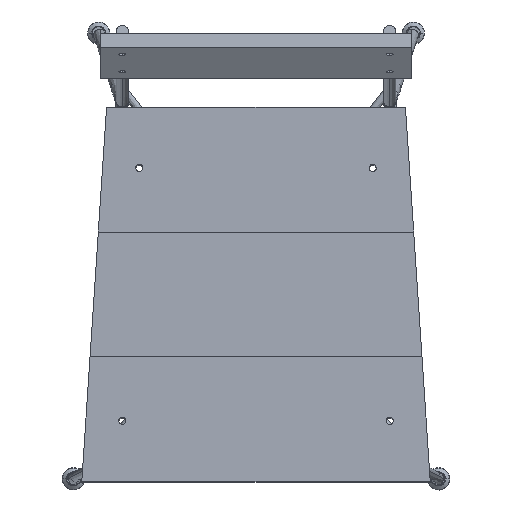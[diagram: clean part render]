
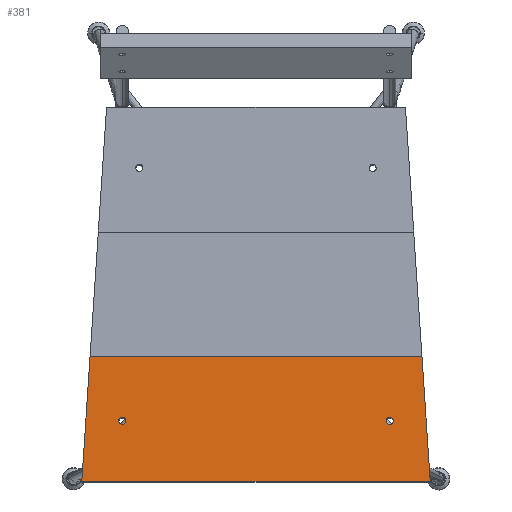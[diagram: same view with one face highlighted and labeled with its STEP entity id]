
A CAD part, top view. The second image highlights one B-rep face of the part: STEP entity #381.
In plain terms, the highlighted planar face has unit normal (0, 0.035, 0.999).
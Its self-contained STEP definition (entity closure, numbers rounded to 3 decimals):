
#127=FACE_BOUND('',#976,.T.);
#128=FACE_BOUND('',#977,.T.);
#381=ADVANCED_FACE('',(#675,#127,#128),#4329,.T.);
#675=FACE_OUTER_BOUND('',#975,.T.);
#975=EDGE_LOOP('',(#2063,#2064,#2065,#2066));
#976=EDGE_LOOP('',(#2067,#2068));
#977=EDGE_LOOP('',(#2069,#2070));
#2063=ORIENTED_EDGE('',*,*,#2860,.F.);
#2064=ORIENTED_EDGE('',*,*,#2863,.F.);
#2065=ORIENTED_EDGE('',*,*,#2861,.F.);
#2066=ORIENTED_EDGE('',*,*,#2858,.F.);
#2067=ORIENTED_EDGE('',*,*,#2869,.T.);
#2068=ORIENTED_EDGE('',*,*,#2875,.T.);
#2069=ORIENTED_EDGE('',*,*,#2873,.T.);
#2070=ORIENTED_EDGE('',*,*,#2877,.T.);
#2858=EDGE_CURVE('',#3972,#3969,#3642,.T.);
#2860=EDGE_CURVE('',#3974,#3972,#3644,.T.);
#2861=EDGE_CURVE('',#3969,#3975,#3645,.T.);
#2863=EDGE_CURVE('',#3975,#3974,#3647,.T.);
#2869=EDGE_CURVE('',#3978,#3977,#3283,.T.);
#2873=EDGE_CURVE('',#3980,#3979,#3287,.T.);
#2875=EDGE_CURVE('',#3977,#3978,#3289,.T.);
#2877=EDGE_CURVE('',#3979,#3980,#3291,.T.);
#3283=(
BOUNDED_CURVE()
B_SPLINE_CURVE(2,(#11505,#11506,#11507,#11508,#11509),.UNSPECIFIED.,.F.,
 .F.)
B_SPLINE_CURVE_WITH_KNOTS((3,2,3),(-16.,-8.,
0.),.UNSPECIFIED.)
CURVE()
GEOMETRIC_REPRESENTATION_ITEM()
RATIONAL_B_SPLINE_CURVE((1.,0.707,1.,0.707,1.))
REPRESENTATION_ITEM('')
);
#3287=(
BOUNDED_CURVE()
B_SPLINE_CURVE(2,(#11519,#11520,#11521,#11522,#11523),.UNSPECIFIED.,.F.,
 .F.)
B_SPLINE_CURVE_WITH_KNOTS((3,2,3),(-16.,-8.,
0.),.UNSPECIFIED.)
CURVE()
GEOMETRIC_REPRESENTATION_ITEM()
RATIONAL_B_SPLINE_CURVE((1.,0.707,1.,0.707,1.))
REPRESENTATION_ITEM('')
);
#3289=(
BOUNDED_CURVE()
B_SPLINE_CURVE(2,(#11526,#11527,#11528,#11529,#11530),.UNSPECIFIED.,.F.,
 .F.)
B_SPLINE_CURVE_WITH_KNOTS((3,2,3),(-16.,-8.,
0.),.UNSPECIFIED.)
CURVE()
GEOMETRIC_REPRESENTATION_ITEM()
RATIONAL_B_SPLINE_CURVE((1.,0.707,1.,0.707,1.))
REPRESENTATION_ITEM('')
);
#3291=(
BOUNDED_CURVE()
B_SPLINE_CURVE(2,(#11536,#11537,#11538,#11539,#11540),.UNSPECIFIED.,.F.,
 .F.)
B_SPLINE_CURVE_WITH_KNOTS((3,2,3),(-16.,-8.,
0.),.UNSPECIFIED.)
CURVE()
GEOMETRIC_REPRESENTATION_ITEM()
RATIONAL_B_SPLINE_CURVE((1.,0.707,1.,0.707,1.))
REPRESENTATION_ITEM('')
);
#3642=B_SPLINE_CURVE_WITH_KNOTS('',1,(#11480,#11481),.UNSPECIFIED.,.F.,
 .F.,(2,2),(0.,372.527),.UNSPECIFIED.);
#3644=B_SPLINE_CURVE_WITH_KNOTS('',1,(#11484,#11485),.UNSPECIFIED.,.F.,
 .F.,(2,2),(0.,140.308),.UNSPECIFIED.);
#3645=B_SPLINE_CURVE_WITH_KNOTS('',1,(#11486,#11487),.UNSPECIFIED.,.F.,
 .F.,(2,2),(0.,140.308),.UNSPECIFIED.);
#3647=B_SPLINE_CURVE_WITH_KNOTS('',1,(#11490,#11491),.UNSPECIFIED.,.F.,
 .F.,(2,2),(0.,391.106),.UNSPECIFIED.);
#3969=VERTEX_POINT('',#11458);
#3972=VERTEX_POINT('',#11461);
#3974=VERTEX_POINT('',#11463);
#3975=VERTEX_POINT('',#11464);
#3977=VERTEX_POINT('',#11466);
#3978=VERTEX_POINT('',#11467);
#3979=VERTEX_POINT('',#11468);
#3980=VERTEX_POINT('',#11469);
#4329=PLANE('',#4447);
#4447=AXIS2_PLACEMENT_3D('',#11416,#4548,$);
#4548=DIRECTION('',(0.,0.035,0.999));
#11416=CARTESIAN_POINT('',(234.676,-14.004,425.489));
#11458=CARTESIAN_POINT('',(186.264,139.915,420.114));
#11461=CARTESIAN_POINT('',(-186.264,139.915,420.114));
#11463=CARTESIAN_POINT('',(-195.553,0.,425.));
#11464=CARTESIAN_POINT('',(195.553,0.,425.));
#11466=CARTESIAN_POINT('',(-145.997,67.981,422.626));
#11467=CARTESIAN_POINT('',(-153.997,67.981,422.626));
#11468=CARTESIAN_POINT('',(145.997,67.981,422.626));
#11469=CARTESIAN_POINT('',(153.997,67.981,422.626));
#11480=CARTESIAN_POINT('',(-186.264,139.915,420.114));
#11481=CARTESIAN_POINT('',(186.264,139.915,420.114));
#11484=CARTESIAN_POINT('',(-195.553,0.,425.));
#11485=CARTESIAN_POINT('',(-186.264,139.915,420.114));
#11486=CARTESIAN_POINT('',(186.264,139.915,420.114));
#11487=CARTESIAN_POINT('',(195.553,0.,425.));
#11490=CARTESIAN_POINT('',(195.553,0.,425.));
#11491=CARTESIAN_POINT('',(-195.553,0.,425.));
#11505=CARTESIAN_POINT('',(-153.997,67.981,422.626));
#11506=CARTESIAN_POINT('',(-153.997,71.979,422.486));
#11507=CARTESIAN_POINT('',(-149.997,71.979,422.486));
#11508=CARTESIAN_POINT('',(-145.997,71.979,422.486));
#11509=CARTESIAN_POINT('',(-145.997,67.981,422.626));
#11519=CARTESIAN_POINT('',(153.997,67.981,422.626));
#11520=CARTESIAN_POINT('',(153.997,63.984,422.766));
#11521=CARTESIAN_POINT('',(149.997,63.984,422.766));
#11522=CARTESIAN_POINT('',(145.997,63.984,422.766));
#11523=CARTESIAN_POINT('',(145.997,67.981,422.626));
#11526=CARTESIAN_POINT('',(-145.997,67.981,422.626));
#11527=CARTESIAN_POINT('',(-145.997,63.984,422.766));
#11528=CARTESIAN_POINT('',(-149.997,63.984,422.766));
#11529=CARTESIAN_POINT('',(-153.997,63.984,422.766));
#11530=CARTESIAN_POINT('',(-153.997,67.981,422.626));
#11536=CARTESIAN_POINT('',(145.997,67.981,422.626));
#11537=CARTESIAN_POINT('',(145.997,71.979,422.486));
#11538=CARTESIAN_POINT('',(149.997,71.979,422.486));
#11539=CARTESIAN_POINT('',(153.997,71.979,422.486));
#11540=CARTESIAN_POINT('',(153.997,67.981,422.626));
